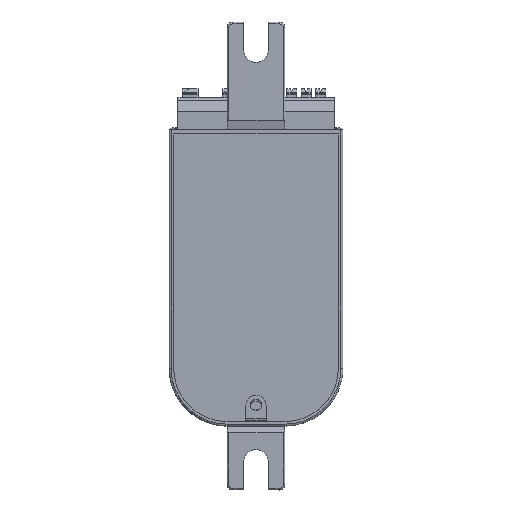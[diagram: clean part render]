
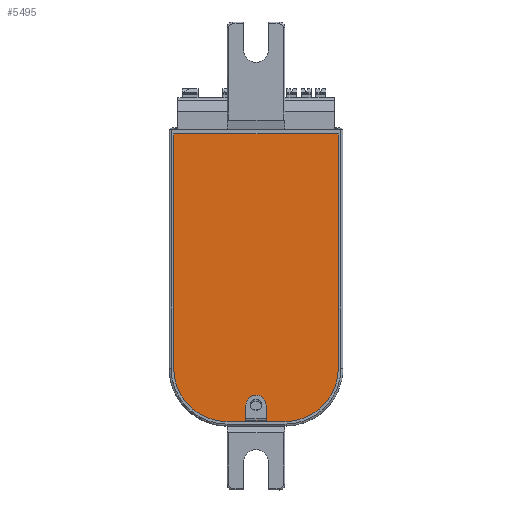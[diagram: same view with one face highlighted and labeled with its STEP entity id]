
A CAD part, front view. The second image highlights one B-rep face of the part: STEP entity #5495.
In plain terms, the highlighted planar face has unit normal (0, -1, -0.016).
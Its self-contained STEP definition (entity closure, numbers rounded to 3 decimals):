
#1603=DIRECTION('',(0.,-0.016,1.));
#1604=VECTOR('',#1603,40.388);
#1605=CARTESIAN_POINT('',(-6.742,6.183,
-58.818));
#1606=LINE('',#1605,#1604);
#1610=DIRECTION('',(1.,0.,0.));
#1611=VECTOR('',#1610,28.388);
#1612=CARTESIAN_POINT('',(-6.742,5.532,
-18.436));
#1613=LINE('',#1612,#1611);
#1617=DIRECTION('',(0.,0.016,-1.));
#1618=VECTOR('',#1617,40.388);
#1619=CARTESIAN_POINT('',(21.646,5.532,-18.436));
#1620=LINE('',#1619,#1618);
#1624=CARTESIAN_POINT('',(12.448,6.183,-58.819));
#1625=DIRECTION('',(0.,1.,0.016));
#1626=DIRECTION('',(1.,0.,0.));
#1627=AXIS2_PLACEMENT_3D('',#1624,#1625,#1626);
#1632=DIRECTION('',(-1.,0.,0.));
#1633=VECTOR('',#1632,9.99);
#1634=CARTESIAN_POINT('',(12.447,6.332,-68.016));
#1635=LINE('',#1634,#1633);
#1639=CARTESIAN_POINT('',(2.456,6.183,-58.819));
#1640=DIRECTION('',(0.,1.,0.016));
#1641=DIRECTION('',(0.,0.016,-1.));
#1642=AXIS2_PLACEMENT_3D('',#1639,#1640,#1641);
#1647=CARTESIAN_POINT('',(7.452,6.286,-65.194));
#1648=DIRECTION('',(0.,-1.,-0.016));
#1649=DIRECTION('',(1.,0.,0.));
#1650=AXIS2_PLACEMENT_3D('',#1647,#1648,#1649);
#1655=DIRECTION('',(0.,-0.016,1.));
#1656=VECTOR('',#1655,2.624);
#1657=CARTESIAN_POINT('',(5.702,6.329,-67.818));
#1658=LINE('',#1657,#1656);
#1690=DIRECTION('',(0.,0.016,-1.));
#1691=VECTOR('',#1690,2.624);
#1692=CARTESIAN_POINT('',(9.202,6.286,-65.194));
#1693=LINE('',#1692,#1691);
#1704=DIRECTION('',(-1.,0.,0.));
#1705=VECTOR('',#1704,3.5);
#1706=CARTESIAN_POINT('',(9.202,6.329,-67.818));
#1707=LINE('',#1706,#1705);
#3583=CARTESIAN_POINT('',(9.202,6.329,-67.818));
#3584=CARTESIAN_POINT('',(5.702,6.329,-67.818));
#3585=VERTEX_POINT('',#3583);
#3586=VERTEX_POINT('',#3584);
#3640=CARTESIAN_POINT('',(-6.742,6.183,
-58.818));
#3641=CARTESIAN_POINT('',(-6.742,5.532,
-18.436));
#3642=VERTEX_POINT('',#3640);
#3643=VERTEX_POINT('',#3641);
#3644=CARTESIAN_POINT('',(21.646,5.532,-18.436));
#3645=VERTEX_POINT('',#3644);
#3646=CARTESIAN_POINT('',(21.646,6.183,-58.818));
#3647=VERTEX_POINT('',#3646);
#3648=CARTESIAN_POINT('',(12.447,6.332,-68.016));
#3649=VERTEX_POINT('',#3648);
#3650=CARTESIAN_POINT('',(2.457,6.332,-68.016));
#3651=VERTEX_POINT('',#3650);
#3652=CARTESIAN_POINT('',(5.702,6.286,-65.194));
#3653=VERTEX_POINT('',#3652);
#3654=CARTESIAN_POINT('',(9.202,6.286,-65.194));
#3655=VERTEX_POINT('',#3654);
#5472=CARTESIAN_POINT('',(7.452,5.88,-40.026));
#5473=DIRECTION('',(0.,-1.,-0.016));
#5474=DIRECTION('',(1.,0.,0.));
#5475=AXIS2_PLACEMENT_3D('',#5472,#5473,#5474);
#5476=PLANE('',#5475);
#5477=ORIENTED_EDGE('',*,*,#5354,.T.);
#5478=ORIENTED_EDGE('',*,*,#5376,.T.);
#5479=ORIENTED_EDGE('',*,*,#5397,.T.);
#5480=ORIENTED_EDGE('',*,*,#5418,.T.);
#5481=ORIENTED_EDGE('',*,*,#5439,.T.);
#5482=ORIENTED_EDGE('',*,*,#5459,.T.);
#5483=EDGE_LOOP('',(#5477,#5478,#5479,#5480,#5481,#5482));
#5484=FACE_OUTER_BOUND('',#5483,.F.);
#5486=ORIENTED_EDGE('',*,*,#5485,.F.);
#5488=ORIENTED_EDGE('',*,*,#5487,.F.);
#5490=ORIENTED_EDGE('',*,*,#5489,.F.);
#5492=ORIENTED_EDGE('',*,*,#5491,.T.);
#5493=EDGE_LOOP('',(#5486,#5488,#5490,#5492));
#5494=FACE_BOUND('',#5493,.F.);
#1628=CIRCLE('',#1627,9.198);
#1643=CIRCLE('',#1642,9.198);
#1651=CIRCLE('',#1650,1.75);
#5354=EDGE_CURVE('',#3642,#3643,#1606,.T.);
#5376=EDGE_CURVE('',#3643,#3645,#1613,.T.);
#5397=EDGE_CURVE('',#3645,#3647,#1620,.T.);
#5418=EDGE_CURVE('',#3647,#3649,#1628,.T.);
#5439=EDGE_CURVE('',#3649,#3651,#1635,.T.);
#5459=EDGE_CURVE('',#3651,#3642,#1643,.T.);
#5485=EDGE_CURVE('',#3586,#3653,#1658,.T.);
#5487=EDGE_CURVE('',#3585,#3586,#1707,.T.);
#5489=EDGE_CURVE('',#3655,#3585,#1693,.T.);
#5491=EDGE_CURVE('',#3655,#3653,#1651,.T.);
#5495=ADVANCED_FACE('',(#5484,#5494),#5476,.T.);
